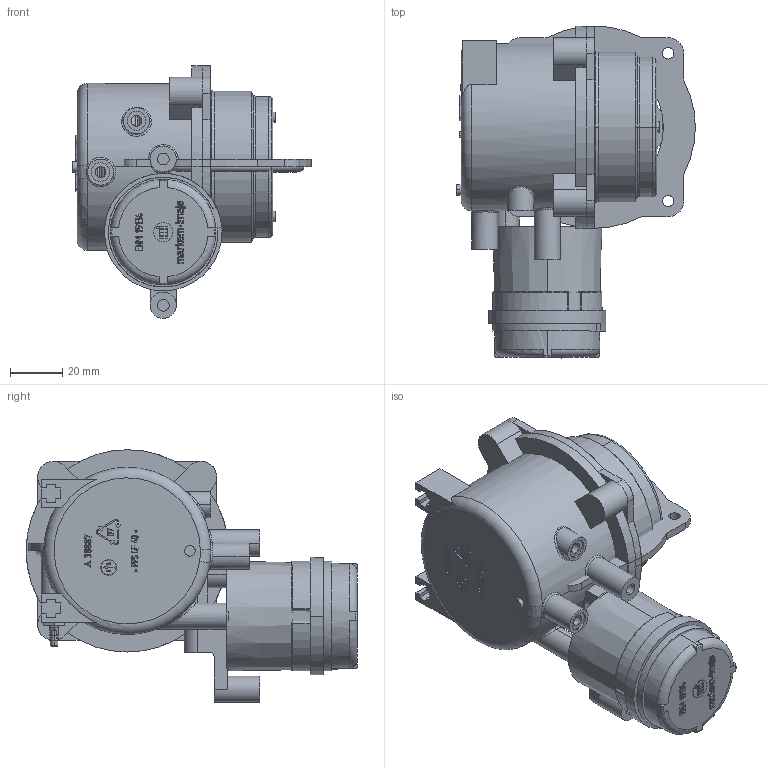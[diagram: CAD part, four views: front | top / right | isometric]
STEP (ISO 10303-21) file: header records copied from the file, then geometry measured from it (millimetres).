
FILE_DESCRIPTION((''),'2;1');
FILE_NAME('A48497_ASM','2021-09-10T17:40:50',('scollot'),('Markem-Imaje'),'CREO PARAMETRIC BY PTC INC, 2020281','CREO PARAMETRIC BY PTC INC, 2020281','');
FILE_SCHEMA(('CONFIG_CONTROL_DESIGN'));
Length unit declared in the file: millimetre
Products named in the file (31): AU10983; AU11050; A38887_ASM; AU10979; AU10978; AU10980; ENM19134_ASM; A38890; AU10509; AU10510; A20194_ASM; A10404; A38889; A19290; A38682; A38986; A37984; A39006_ASM; A40548; A27060; A44342; A25135; A38107_BASE; A38107_GRID; A38107_ASM; A25134; A10268; A10241; A10266; A10213; A48497_ASM
Assembly tree (47 placements, depth 3):
  A48497_ASM
    A38887_ASM
      AU10983
      AU11050  x6
    ENM19134_ASM
      AU10979
      AU10978
      AU10980
    A38890
    A20194_ASM
      AU10509
      AU10510  x2
    A10404
    A39006_ASM
      A38889
      A19290
      A38682
      A38986
      A37984
    A40548
    A27060  x4
    A44342
    A25135
    A38107_ASM
      A38107_BASE
      A38107_GRID
    A25134
    A10268  x4
    A10241  x4
    A10266  x2
    A10213  x2
Bounding box: 91.45 x 127.12 x 96.75 mm (x, y, z)
Volume: 144028.2 mm3; surface area: 148455.5 mm2
Topology: 24 solids, 28 shells, 2025 faces, 5358 edges, 3607 vertices
Faces by surface type: plane 859, extrusion 413, cylinder 411, torus 213, cone 96, bspline 21, sphere 12
Entity records: 77789 total; most frequent: CARTESIAN_POINT 26699, ORIENTED_EDGE 10572, DIRECTION 9909, EDGE_CURVE 5299, VERTEX_POINT 3520, AXIS2_PLACEMENT_3D 3400, VECTOR 3109, LINE 2696
